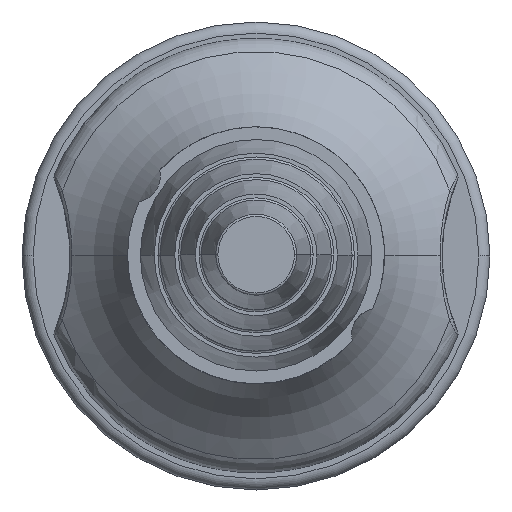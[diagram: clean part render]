
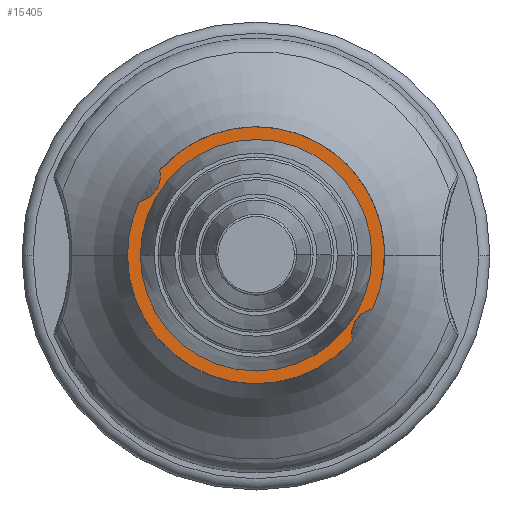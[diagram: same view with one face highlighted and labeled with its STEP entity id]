
A CAD part, top view. The second image highlights one B-rep face of the part: STEP entity #15405.
In plain terms, the highlighted planar face has unit normal (0, 0, 1).
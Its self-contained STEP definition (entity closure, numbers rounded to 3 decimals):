
#142 = CARTESIAN_POINT ( 'NONE',  ( -184.387, 2062.621, 127.7 ) ) ;
#173 = EDGE_CURVE ( 'NONE', #4010, #5763, #10280, .T. ) ;
#998 = DIRECTION ( 'NONE',  ( 0., 0., 1. ) ) ;
#1033 = CIRCLE ( 'NONE', #4550, 2.4 ) ;
#1453 = VERTEX_POINT ( 'NONE', #8955 ) ;
#1700 = DIRECTION ( 'NONE',  ( 0., 0., 1. ) ) ;
#1835 = EDGE_CURVE ( 'NONE', #5763, #4010, #9523, .T. ) ;
#2177 = DIRECTION ( 'NONE',  ( 1., 0., 0. ) ) ;
#2180 = CARTESIAN_POINT ( 'NONE',  ( -185.86, 2067.421, 127.7 ) ) ;
#2238 = EDGE_CURVE ( 'NONE', #7983, #5415, #6285, .T. ) ;
#2323 = DIRECTION ( 'NONE',  ( 1., 0., 0. ) ) ;
#2593 = DIRECTION ( 'NONE',  ( 0., 0., 1. ) ) ;
#2779 = CARTESIAN_POINT ( 'NONE',  ( -186.296, 2060.271, 127.7 ) ) ;
#3166 = CARTESIAN_POINT ( 'NONE',  ( -183.896, 2060.271, 127.7 ) ) ;
#3363 = AXIS2_PLACEMENT_3D ( 'NONE', #8855, #998, #2177 ) ;
#3436 = ORIENTED_EDGE ( 'NONE', *, *, #12413, .T. ) ;
#3774 = FACE_OUTER_BOUND ( 'NONE', #5690, .T. ) ;
#3838 = AXIS2_PLACEMENT_3D ( 'NONE', #5413, #13224, #6539 ) ;
#4010 = VERTEX_POINT ( 'NONE', #16763 ) ;
#4203 = DIRECTION ( 'NONE',  ( 1., 0., 0. ) ) ;
#4550 = AXIS2_PLACEMENT_3D ( 'NONE', #5972, #12575, #2323 ) ;
#4614 = ORIENTED_EDGE ( 'NONE', *, *, #2238, .T. ) ;
#4629 = EDGE_CURVE ( 'NONE', #1453, #7983, #6349, .T. ) ;
#4921 = EDGE_LOOP ( 'NONE', ( #8406, #6424 ) ) ;
#5292 = PLANE ( 'NONE',  #10920 ) ;
#5413 = CARTESIAN_POINT ( 'NONE',  ( -194.871, 2067.422, 127.7 ) ) ;
#5415 = VERTEX_POINT ( 'NONE', #7622 ) ;
#5459 = DIRECTION ( 'NONE',  ( 0., 0., 1. ) ) ;
#5660 = VERTEX_POINT ( 'NONE', #5827 ) ;
#5690 = EDGE_LOOP ( 'NONE', ( #10759, #7663, #4614, #3436, #13032, #15752 ) ) ;
#5763 = VERTEX_POINT ( 'NONE', #2180 ) ;
#5827 = CARTESIAN_POINT ( 'NONE',  ( -203.501, 2075.07, 127.7 ) ) ;
#5956 = DIRECTION ( 'NONE',  ( 0., 0., -1. ) ) ;
#5972 = CARTESIAN_POINT ( 'NONE',  ( -183.896, 2060.271, 127.7 ) ) ;
#6147 = EDGE_CURVE ( 'NONE', #5660, #1453, #15631, .T. ) ;
#6185 = EDGE_CURVE ( 'NONE', #8545, #9737, #1033, .T. ) ;
#6285 = CIRCLE ( 'NONE', #3838, 11.531 ) ;
#6349 = CIRCLE ( 'NONE', #3363, 11.531 ) ;
#6424 = ORIENTED_EDGE ( 'NONE', *, *, #1835, .F. ) ;
#6539 = DIRECTION ( 'NONE',  ( 1., 0., 0. ) ) ;
#6655 = DIRECTION ( 'NONE',  ( 1., 0., 0. ) ) ;
#7622 = CARTESIAN_POINT ( 'NONE',  ( -186.243, 2059.771, 127.7 ) ) ;
#7663 = ORIENTED_EDGE ( 'NONE', *, *, #4629, .T. ) ;
#7983 = VERTEX_POINT ( 'NONE', #8315 ) ;
#8315 = CARTESIAN_POINT ( 'NONE',  ( -206.403, 2067.422, 127.7 ) ) ;
#8406 = ORIENTED_EDGE ( 'NONE', *, *, #173, .F. ) ;
#8545 = VERTEX_POINT ( 'NONE', #2779 ) ;
#8782 = EDGE_CURVE ( 'NONE', #9737, #5660, #10778, .T. ) ;
#8855 = CARTESIAN_POINT ( 'NONE',  ( -194.871, 2067.422, 127.7 ) ) ;
#8955 = CARTESIAN_POINT ( 'NONE',  ( -205.357, 2072.221, 127.7 ) ) ;
#9523 = CIRCLE ( 'NONE', #11161, 9. ) ;
#9737 = VERTEX_POINT ( 'NONE', #142 ) ;
#9752 = DIRECTION ( 'NONE',  ( 1., 0., 0. ) ) ;
#10280 = CIRCLE ( 'NONE', #11099, 9. ) ;
#10292 = DIRECTION ( 'NONE',  ( 0., 0., 1. ) ) ;
#10376 = CARTESIAN_POINT ( 'NONE',  ( -194.872, 2077.421, 127.7 ) ) ;
#10377 = CIRCLE ( 'NONE', #16061, 2.4 ) ;
#10759 = ORIENTED_EDGE ( 'NONE', *, *, #6147, .T. ) ;
#10778 = CIRCLE ( 'NONE', #13498, 11.531 ) ;
#10788 = DIRECTION ( 'NONE',  ( 1., 0., 0. ) ) ;
#10920 = AXIS2_PLACEMENT_3D ( 'NONE', #10376, #10292, #6655 ) ;
#11099 = AXIS2_PLACEMENT_3D ( 'NONE', #12388, #1700, #9752 ) ;
#11161 = AXIS2_PLACEMENT_3D ( 'NONE', #14122, #2593, #11889 ) ;
#11321 = CARTESIAN_POINT ( 'NONE',  ( -205.848, 2074.571, 127.7 ) ) ;
#11889 = DIRECTION ( 'NONE',  ( 1., 0., 0. ) ) ;
#12388 = CARTESIAN_POINT ( 'NONE',  ( -194.86, 2067.421, 127.7 ) ) ;
#12413 = EDGE_CURVE ( 'NONE', #5415, #8545, #10377, .T. ) ;
#12575 = DIRECTION ( 'NONE',  ( 0., 0., -1. ) ) ;
#13032 = ORIENTED_EDGE ( 'NONE', *, *, #6185, .T. ) ;
#13085 = FACE_BOUND ( 'NONE', #4921, .T. ) ;
#13224 = DIRECTION ( 'NONE',  ( 0., 0., 1. ) ) ;
#13498 = AXIS2_PLACEMENT_3D ( 'NONE', #15646, #5459, #4203 ) ;
#13757 = AXIS2_PLACEMENT_3D ( 'NONE', #11321, #16497, #13862 ) ;
#13862 = DIRECTION ( 'NONE',  ( 1., 0., 0. ) ) ;
#14122 = CARTESIAN_POINT ( 'NONE',  ( -194.86, 2067.421, 127.7 ) ) ;
#15405 = ADVANCED_FACE ( 'NONE', ( #13085, #3774 ), #5292, .T. ) ;
#15631 = CIRCLE ( 'NONE', #13757, 2.4 ) ;
#15646 = CARTESIAN_POINT ( 'NONE',  ( -194.873, 2067.42, 127.7 ) ) ;
#15752 = ORIENTED_EDGE ( 'NONE', *, *, #8782, .T. ) ;
#16061 = AXIS2_PLACEMENT_3D ( 'NONE', #3166, #5956, #10788 ) ;
#16497 = DIRECTION ( 'NONE',  ( 0., 0., -1. ) ) ;
#16763 = CARTESIAN_POINT ( 'NONE',  ( -203.86, 2067.421, 127.7 ) ) ;
